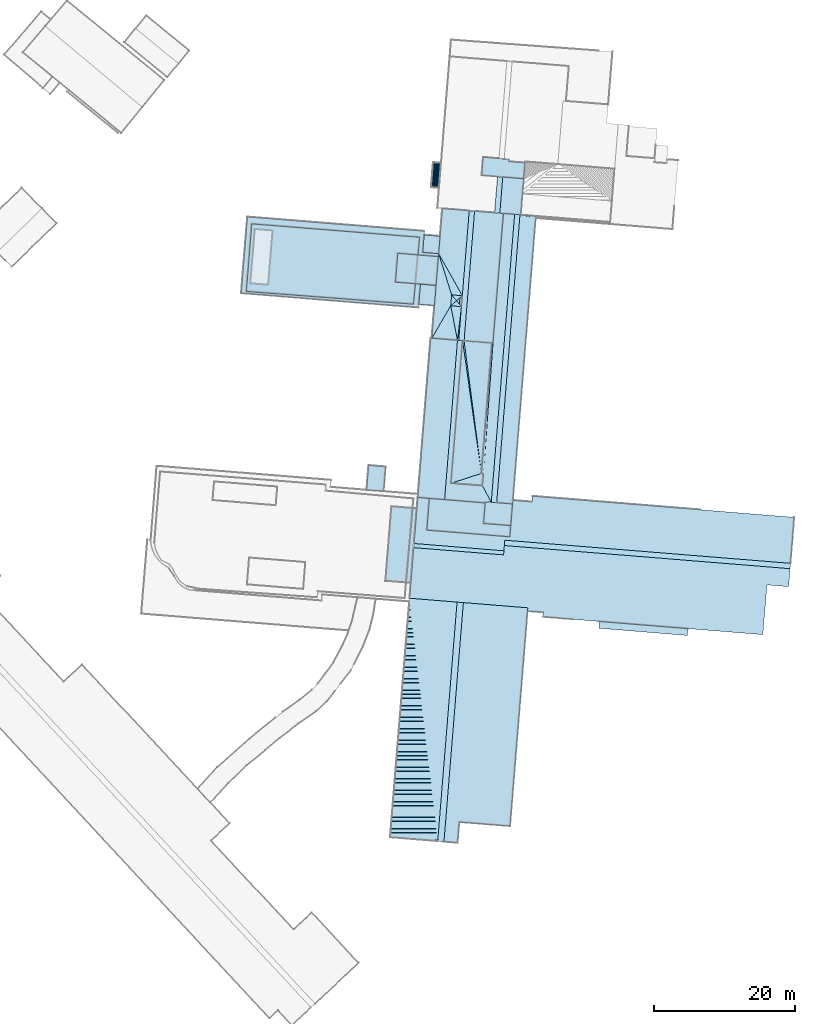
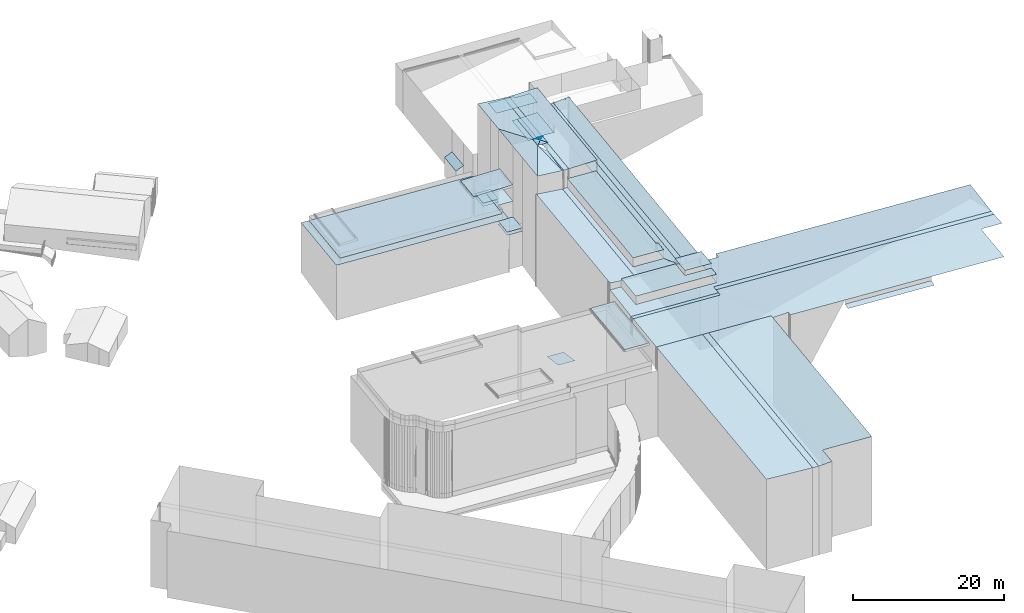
# Not in any storey, part 134 of 136: 69 roofs.
"""IFC4 building model written with IfcOpenShell, lengths in metres."""

from ifc_helpers import new_model, entity, si_unit, converted_unit, frame, origin, place, context, subcontext, project, spatial, face_set, surface_model, element, save


model = new_model("IFC4")

# Units and contexts
model_context = context("Model", 3, precision=1e-05, world=origin())
body_context = subcontext(model_context, "Body", "Model", "MODEL_VIEW")
ifc_project = project(units=[converted_unit("PLANEANGLEUNIT", "DEGREE", entity("IfcRatioMeasure", 0.0174532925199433), si_unit("PLANEANGLEUNIT", "RADIAN"), dimensions=[0, 0, 0, 0, 0, 0, 0]), si_unit("AREAUNIT", "SQUARE_METRE"), si_unit("LENGTHUNIT", "METRE")], contexts=[model_context])

# Site, building
site_placement = place(None, origin())
site = spatial("IfcSite", under=ifc_project, at=site_placement, Name="_site")
building_1_placement = place(site_placement, origin())
building_1 = spatial("IfcBuilding", under=site, at=building_1_placement, Name="_building")

# Roofs
roof_1_placement = place(building_1_placement, origin())
element("IfcRoof", 1, at=roof_1_placement, inside=building_1, Name="Roof", PredefinedType="NOTDEFINED", context=body_context, shape_type="SurfaceModel", body=[
    surface_model("IfcFaceBasedSurfaceModel", [(189.5, 104.54, 48.15), (188.73, 94.94, 48.15), (212.49, 93.12, 48.15), (213.36, 102.63, 48.15)], [face_set([[[0, 1, 2, 3]]])]),
])
roof_2_placement = place(building_1_placement, origin())
element("IfcRoof", 2, at=roof_2_placement, inside=building_1, Name="Roof", PredefinedType="NOTDEFINED", context=body_context, shape_type="SurfaceModel", body=[
    surface_model("IfcFaceBasedSurfaceModel", [(215.69, 95.79, 50.07), (216.03, 99.88, 50.07), (210.25, 100.36, 49.87), (209.92, 96.26, 49.87)], [face_set([[[0, 1, 2, 3]]])]),
])

# Building
building_2_placement = place(site_placement, origin())
building_2 = spatial("IfcBuilding", under=site, at=building_2_placement, Name="_building")

# Roofs
roof_3_placement = place(building_2_placement, origin())
element("IfcRoof", 3, at=roof_3_placement, inside=building_2, Name="Roof", PredefinedType="NOTDEFINED", context=body_context, shape_type="SurfaceModel", body=[
    surface_model("IfcFaceBasedSurfaceModel", [(266.0, 55.54, 52.09), (266.06, 56.3, 52.09), (225.45, 59.59, 52.09), (225.39, 58.83, 52.09)], [face_set([[[0, 1, 2, 3]]])]),
])
roof_4_placement = place(building_2_placement, origin())
element("IfcRoof", 4, at=roof_4_placement, inside=building_2, Name="Roof", PredefinedType="NOTDEFINED", context=body_context, shape_type="SurfaceModel", body=[
    surface_model("IfcFaceBasedSurfaceModel", [(211.93, 51.34, 52.09), (211.89, 50.86, 52.09), (209.17, 17.36, 52.25), (215.92, 16.811, 52.09), (218.67, 50.79, 52.09)], [face_set([[[0, 1, 2, 3, 4]]])]),
])
roof_5_placement = place(building_2_placement, origin())
element("IfcRoof", 5, at=roof_5_placement, inside=building_2, Name="Roof", PredefinedType="NOTDEFINED", context=body_context, shape_type="SurfaceModel", body=[
    surface_model("IfcFaceBasedSurfaceModel", [(215.46, 92.93, 44.89), (215.69, 95.79, 44.89), (213.47, 95.97, 44.89), (213.24, 93.11, 44.89)], [face_set([[[0, 1, 2, 3]]])]),
])
roof_6_placement = place(building_2_placement, origin())
element("IfcRoof", 6, at=roof_6_placement, inside=building_2, Name="Roof", PredefinedType="NOTDEFINED", context=body_context, shape_type="SurfaceModel", body=[
    surface_model("IfcFaceBasedSurfaceModel", [(205.82, 66.72, 41.95), (208.25, 66.53, 41.95), (208.53, 70.03, 41.13), (206.1, 70.23, 41.13)], [face_set([[[0, 1, 2, 3]]])]),
])
roof_7_placement = place(building_2_placement, origin())
element("IfcRoof", 7, at=roof_7_placement, inside=building_2, Name="Roof", PredefinedType="NOTDEFINED", context=body_context, shape_type="SurfaceModel", body=[
    surface_model("IfcFaceBasedSurfaceModel", [(223.64, 87.59, 54.52), (219.67, 87.917, 54.52), (219.45, 87.93, 54.52), (217.81, 67.68, 54.52), (222.28, 67.32, 54.52), (222.42, 69.061, 54.52), (222.14, 69.08, 54.52)], [face_set([[[0, 1, 2, 3, 4, 5, 6]]])]),
])
roof_8_placement = place(building_2_placement, origin())
element("IfcRoof", 8, at=roof_8_placement, inside=building_2, Name="Roof", PredefinedType="NOTDEFINED", context=body_context, shape_type="SurfaceModel", body=[
    surface_model("IfcFaceBasedSurfaceModel", [(215.69, 95.79, 50.07), (216.03, 99.88, 50.07), (210.25, 100.36, 49.87), (209.92, 96.26, 49.87)], [face_set([[[0, 1, 2, 3]]])]),
])
roof_9_placement = place(building_2_placement, origin())
element("IfcRoof", 9, at=roof_9_placement, inside=building_2, Name="Roof", PredefinedType="NOTDEFINED", context=body_context, shape_type="SurfaceModel", body=[
    surface_model("IfcFaceBasedSurfaceModel", [(219.42, 94.33, 56.01), (219.29, 92.78, 56.01), (218.91, 87.978, 56.01), (219.45, 87.93, 56.01), (219.67, 87.917, 56.01), (221.16, 106.35, 56.01), (220.4, 106.41, 56.01)], [face_set([[[0, 1, 2, 3, 4, 5, 6]]])]),
])
roof_10_placement = place(building_2_placement, origin())
element("IfcRoof", 10, at=roof_10_placement, inside=building_2, Name="Roof", PredefinedType="NOTDEFINED", context=body_context, shape_type="SurfaceModel", body=[
    surface_model("IfcFaceBasedSurfaceModel", [(218.67, 50.79, 52.09), (219.57, 50.72, 52.09), (228.73, 49.98, 52.09), (228.69, 49.5, 52.09), (230.94, 49.32, 52.25), (230.89, 48.69, 52.25), (238.89, 48.04, 52.25), (251.5, 47.021, 52.25), (262.13, 46.16, 52.25), (262.71, 53.23, 52.25), (265.79, 52.98, 52.25), (266.0, 55.54, 52.09), (225.39, 58.83, 52.09), (225.33, 58.08, 52.09), (225.28, 57.5, 52.09), (212.511, 58.53, 52.09), (211.93, 51.34, 52.09)], [face_set([[[0, 1, 2, 3, 4, 5, 6, 7, 8, 9, 10, 11, 12, 13, 14, 15, 16]]])]),
])
roof_11_placement = place(building_2_placement, origin())
element("IfcRoof", 11, at=roof_11_placement, inside=building_2, Name="Roof", PredefinedType="NOTDEFINED", context=body_context, shape_type="SurfaceModel", body=[
    surface_model("IfcFaceBasedSurfaceModel", [(228.15, 110.95, 49.85), (228.34, 113.22, 49.85), (226.06, 113.4, 49.85), (226.08, 113.72, 49.85), (225.37, 113.774, 49.85), (224.63, 113.833, 49.85), (222.38, 114.021, 49.85), (222.17, 111.43, 49.85), (224.42, 111.25, 49.85), (225.16, 111.19, 49.85)], [face_set([[[0, 1, 2, 3, 4, 5, 6, 7, 8, 9]]])]),
])
roof_12_placement = place(building_2_placement, origin())
element("IfcRoof", 12, at=roof_12_placement, inside=building_2, Name="Roof", PredefinedType="NOTDEFINED", context=body_context, shape_type="SurfaceModel", body=[
    surface_model("IfcFaceBasedSurfaceModel", [(222.68, 64.88, 53.57), (216.9, 65.349, 53.57), (214.74, 65.521, 53.57), (214.38, 61.021, 53.57), (226.18, 60.061, 53.57), (226.31, 61.65, 53.57), (222.44, 61.96, 53.57)], [face_set([[[0, 1, 2, 3, 4, 5, 6]]])]),
])
roof_13_placement = place(building_2_placement, origin())
element("IfcRoof", 13, at=roof_13_placement, inside=building_2, Name="Roof", PredefinedType="NOTDEFINED", context=body_context, shape_type="SurfaceModel", body=[
    surface_model("IfcFaceBasedSurfaceModel", [(229.85, 105.351, 53.35), (229.88, 105.64, 53.35), (227.74, 105.811, 53.07), (227.61, 105.821, 53.06), (224.3, 64.919, 53.06), (226.56, 64.73, 53.35), (226.61, 65.26, 53.35)], [face_set([[[0, 1, 2, 3, 4, 5, 6]]])]),
])
roof_14_placement = place(building_2_placement, origin())
element("IfcRoof", 14, at=roof_14_placement, inside=building_2, Name="Roof", PredefinedType="NOTDEFINED", context=body_context, shape_type="SurfaceModel", body=[
    surface_model("IfcFaceBasedSurfaceModel", [(219.67, 87.917, 56.01), (223.64, 87.59, 56.21), (223.78, 87.58, 56.22), (225.27, 106.01, 56.22), (224.75, 106.058, 56.193), (224.0, 106.118, 56.155), (221.16, 106.35, 56.01)], [face_set([[[0, 1, 2, 3, 4, 5, 6]]])]),
])
roof_15_placement = place(building_2_placement, origin())
element("IfcRoof", 15, at=roof_15_placement, inside=building_2, Name="Roof", PredefinedType="NOTDEFINED", context=body_context, shape_type="SurfaceModel", body=[
    surface_model("IfcFaceBasedSurfaceModel", [(227.61, 105.821, 53.06), (226.85, 105.887, 53.06), (223.53, 64.98, 53.06), (224.3, 64.919, 53.06)], [face_set([[[0, 1, 2, 3]]])]),
])
roof_16_placement = place(building_2_placement, origin())
element("IfcRoof", 16, at=roof_16_placement, inside=building_2, Name="Roof", PredefinedType="NOTDEFINED", context=body_context, shape_type="SurfaceModel", body=[
    surface_model("IfcFaceBasedSurfaceModel", [(217.77, 92.9, 57.43), (219.29, 92.78, 57.43), (218.6, 93.62, 57.61)], [face_set([[[0, 1, 2]]])]),
])
roof_17_placement = place(building_2_placement, origin())
element("IfcRoof", 17, at=roof_17_placement, inside=building_2, Name="Roof", PredefinedType="NOTDEFINED", context=body_context, shape_type="SurfaceModel", body=[
    surface_model("IfcFaceBasedSurfaceModel", [(228.15, 110.95, 49.85), (228.34, 113.22, 49.85), (226.06, 113.4, 49.85), (226.08, 113.72, 49.85), (225.37, 113.774, 49.85), (224.63, 113.833, 49.85), (222.38, 114.021, 49.85), (222.17, 111.43, 49.85), (224.42, 111.25, 49.85), (225.16, 111.19, 49.85)], [face_set([[[0, 1, 2, 3, 4, 5, 6, 7, 8, 9]]])]),
])
roof_18_placement = place(building_2_placement, origin())
element("IfcRoof", 18, at=roof_18_placement, inside=building_2, Name="Roof", PredefinedType="NOTDEFINED", context=body_context, shape_type="SurfaceModel", body=[
    surface_model("IfcFaceBasedSurfaceModel", [(216.26, 102.79, 44.36), (214.0, 102.97, 44.36), (213.79, 100.48, 44.36), (216.06, 100.3, 44.36)], [face_set([[[0, 1, 2, 3]]])]),
])
roof_19_placement = place(building_2_placement, origin())
element("IfcRoof", 19, at=roof_19_placement, inside=building_2, Name="Roof", PredefinedType="NOTDEFINED", context=body_context, shape_type="SurfaceModel", body=[
    surface_model("IfcFaceBasedSurfaceModel", [(224.0, 106.118, 48.02), (224.75, 106.058, 48.02), (225.16, 111.19, 48.02), (224.42, 111.25, 48.02)], [face_set([[[0, 1, 2, 3]]])]),
])
roof_20_placement = place(building_2_placement, origin())
element("IfcRoof", 20, at=roof_20_placement, inside=building_2, Name="Roof", PredefinedType="NOTDEFINED", context=body_context, shape_type="SurfaceModel", body=[
    surface_model("IfcFaceBasedSurfaceModel", [(225.28, 57.5, 52.09), (225.33, 58.08, 52.09), (212.56, 59.12, 52.09), (212.511, 58.53, 52.09)], [face_set([[[0, 1, 2, 3]]])]),
])
roof_21_placement = place(building_2_placement, origin())
element("IfcRoof", 21, at=roof_21_placement, inside=building_2, Name="Roof", PredefinedType="NOTDEFINED", context=body_context, shape_type="SurfaceModel", body=[
    surface_model("IfcFaceBasedSurfaceModel", [(218.6, 93.62, 57.61), (219.42, 94.33, 57.43), (217.9, 94.45, 57.43)], [face_set([[[0, 1, 2]]])]),
])
roof_22_placement = place(building_2_placement, origin())
element("IfcRoof", 22, at=roof_22_placement, inside=building_2, Name="Roof", PredefinedType="NOTDEFINED", context=body_context, shape_type="SurfaceModel", body=[
    surface_model("IfcFaceBasedSurfaceModel", [(222.68, 64.88, 53.57), (216.9, 65.349, 53.57), (214.74, 65.521, 53.57), (214.38, 61.021, 53.57), (226.18, 60.061, 53.57), (226.31, 61.65, 53.57), (222.44, 61.96, 53.57)], [face_set([[[0, 1, 2, 3, 4, 5, 6]]])]),
])
roof_23_placement = place(building_2_placement, origin())
element("IfcRoof", 23, at=roof_23_placement, inside=building_2, Name="Roof", PredefinedType="NOTDEFINED", context=body_context, shape_type="SurfaceModel", body=[
    surface_model("IfcFaceBasedSurfaceModel", [(215.08, 88.29, 56.22), (218.73, 87.992, 56.02), (218.91, 87.978, 56.01), (219.29, 92.78, 56.01), (217.77, 92.9, 57.43), (217.9, 94.45, 57.43), (219.42, 94.33, 56.01), (220.4, 106.41, 56.01), (216.58, 106.72, 56.22), (216.26, 102.79, 56.22), (216.06, 100.3, 56.22), (215.69, 95.79, 56.22), (215.46, 92.93, 56.22)], [face_set([[[0, 1, 2, 3, 4, 5, 6, 7, 8, 9, 10, 11, 12]]])]),
])
roof_24_placement = place(building_2_placement, origin())
element("IfcRoof", 24, at=roof_24_placement, inside=building_2, Name="Roof", PredefinedType="NOTDEFINED", context=body_context, shape_type="SurfaceModel", body=[
    surface_model("IfcFaceBasedSurfaceModel", [(189.5, 104.54, 48.15), (188.73, 94.94, 48.15), (212.49, 93.12, 48.15), (213.36, 102.63, 48.15)], [face_set([[[0, 1, 2, 3]]])]),
])
roof_25_placement = place(building_2_placement, origin())
element("IfcRoof", 25, at=roof_25_placement, inside=building_2, Name="Roof", PredefinedType="NOTDEFINED", context=body_context, shape_type="SurfaceModel", body=[
    surface_model("IfcFaceBasedSurfaceModel", [(225.28, 57.5, 52.09), (225.33, 58.08, 52.09), (212.56, 59.12, 52.09), (212.511, 58.53, 52.09)], [face_set([[[0, 1, 2, 3]]])]),
])
roof_26_placement = place(building_2_placement, origin())
element("IfcRoof", 26, at=roof_26_placement, inside=building_2, Name="Roof", PredefinedType="NOTDEFINED", context=body_context, shape_type="SurfaceModel", body=[
    surface_model("IfcFaceBasedSurfaceModel", [(224.3, 64.919, 54.32), (223.53, 64.98, 54.32), (222.69, 65.05, 54.32), (222.68, 64.88, 54.32), (222.44, 61.96, 54.32), (226.31, 61.65, 54.32), (226.56, 64.73, 54.32)], [face_set([[[0, 1, 2, 3, 4, 5, 6]]])]),
])
roof_27_placement = place(building_2_placement, origin())
element("IfcRoof", 27, at=roof_27_placement, inside=building_2, Name="Roof", PredefinedType="NOTDEFINED", context=body_context, shape_type="SurfaceModel", body=[
    surface_model("IfcFaceBasedSurfaceModel", [(215.08, 88.29, 56.22), (218.73, 87.992, 56.02), (218.91, 87.978, 56.01), (219.29, 92.78, 56.01), (217.77, 92.9, 57.43), (217.9, 94.45, 57.43), (219.42, 94.33, 56.01), (220.4, 106.41, 56.01), (216.58, 106.72, 56.22), (216.26, 102.79, 56.22), (216.06, 100.3, 56.22), (215.69, 95.79, 56.22), (215.46, 92.93, 56.22)], [face_set([[[0, 1, 2, 3, 4, 5, 6, 7, 8, 9, 10, 11, 12]]])]),
])
roof_28_placement = place(building_2_placement, origin())
element("IfcRoof", 28, at=roof_28_placement, inside=building_2, Name="Roof", PredefinedType="NOTDEFINED", context=body_context, shape_type="SurfaceModel", body=[
    surface_model("IfcFaceBasedSurfaceModel", [(223.64, 87.59, 54.52), (219.67, 87.917, 54.52), (219.45, 87.93, 54.52), (217.81, 67.68, 54.52), (222.28, 67.32, 54.52), (222.42, 69.061, 54.52), (222.14, 69.08, 54.52)], [face_set([[[0, 1, 2, 3, 4, 5, 6]]])]),
])
roof_29_placement = place(building_2_placement, origin())
element("IfcRoof", 29, at=roof_29_placement, inside=building_2, Name="Roof", PredefinedType="NOTDEFINED", context=body_context, shape_type="SurfaceModel", body=[
    surface_model("IfcFaceBasedSurfaceModel", [(216.26, 102.79, 44.36), (214.0, 102.97, 44.36), (213.79, 100.48, 44.36), (216.06, 100.3, 44.36)], [face_set([[[0, 1, 2, 3]]])]),
])
roof_30_placement = place(building_2_placement, origin())
element("IfcRoof", 30, at=roof_30_placement, inside=building_2, Name="Roof", PredefinedType="NOTDEFINED", context=body_context, shape_type="SurfaceModel", body=[
    surface_model("IfcFaceBasedSurfaceModel", [(218.67, 50.79, 52.09), (219.57, 50.72, 52.09), (228.73, 49.98, 52.09), (228.69, 49.5, 52.09), (230.94, 49.32, 52.25), (230.89, 48.69, 52.25), (238.89, 48.04, 52.25), (251.5, 47.021, 52.25), (262.13, 46.16, 52.25), (262.71, 53.23, 52.25), (265.79, 52.98, 52.25), (266.0, 55.54, 52.09), (225.39, 58.83, 52.09), (225.33, 58.08, 52.09), (225.28, 57.5, 52.09), (212.511, 58.53, 52.09), (211.93, 51.34, 52.09)], [face_set([[[0, 1, 2, 3, 4, 5, 6, 7, 8, 9, 10, 11, 12, 13, 14, 15, 16]]])]),
])
roof_31_placement = place(building_2_placement, origin())
element("IfcRoof", 31, at=roof_31_placement, inside=building_2, Name="Roof", PredefinedType="NOTDEFINED", context=body_context, shape_type="SurfaceModel", body=[
    surface_model("IfcFaceBasedSurfaceModel", [(217.77, 92.9, 57.43), (219.29, 92.78, 57.43), (218.6, 93.62, 57.61)], [face_set([[[0, 1, 2]]])]),
])
roof_32_placement = place(building_2_placement, origin())
element("IfcRoof", 32, at=roof_32_placement, inside=building_2, Name="Roof", PredefinedType="NOTDEFINED", context=body_context, shape_type="SurfaceModel", body=[
    surface_model("IfcFaceBasedSurfaceModel", [(212.96, 64.09, 51.37), (209.36, 64.38, 51.37), (208.5, 53.79, 51.37), (212.1, 53.5, 51.37)], [face_set([[[0, 1, 2, 3]]])]),
])
for number, where, name in (
    (33, (0.0, 0.0, 0.0), "Roof"),
    (34, (0.0, 0.0, 0.0), "Roof"),
):
    element("IfcRoof", number, at=place(building_2_placement, frame(where)), inside=building_2, Name=name, PredefinedType="NOTDEFINED", context=body_context, shape_type="SurfaceModel", body=[
        surface_model("IfcFaceBasedSurfaceModel", [(213.79, 100.48, 44.89), (216.06, 100.3, 44.89), (216.26, 102.79, 44.89), (214.0, 102.97, 44.89)], [face_set([[[0, 1, 2, 3]]])]),
    ])
roof_33_placement = place(building_2_placement, origin())
element("IfcRoof", 35, at=roof_33_placement, inside=building_2, Name="Roof", PredefinedType="NOTDEFINED", context=body_context, shape_type="SurfaceModel", body=[
    surface_model("IfcFaceBasedSurfaceModel", [(216.9, 65.349, 53.06), (222.68, 64.88, 53.35), (222.69, 65.05, 53.35), (223.53, 64.98, 53.06), (226.85, 105.887, 53.06), (225.27, 106.01, 53.35), (223.78, 87.58, 53.35), (223.64, 87.59, 53.33), (222.14, 69.08, 53.1), (222.42, 69.061, 53.1), (222.28, 67.32, 53.1), (217.81, 67.68, 53.1), (219.45, 87.93, 53.1), (218.91, 87.978, 53.07), (218.73, 87.992, 53.06)], [face_set([[[0, 1, 2, 3, 4, 5, 6, 7, 8, 9, 10, 11, 12, 13, 14]]])]),
])
roof_34_placement = place(building_2_placement, origin())
element("IfcRoof", 36, at=roof_34_placement, inside=building_2, Name="Roof", PredefinedType="NOTDEFINED", context=body_context, shape_type="SurfaceModel", body=[
    surface_model("IfcFaceBasedSurfaceModel", [(216.12, 109.64, 44.61), (216.41, 113.19, 44.61), (215.27, 113.28, 44.04), (214.98, 109.73, 44.04)], [face_set([[[0, 1, 2, 3]]])]),
])
roof_35_placement = place(building_2_placement, origin())
element("IfcRoof", 37, at=roof_35_placement, inside=building_2, Name="Roof", PredefinedType="NOTDEFINED", context=body_context, shape_type="SurfaceModel", body=[
    surface_model("IfcFaceBasedSurfaceModel", [(218.6, 93.62, 57.61), (217.9, 94.45, 57.43), (217.77, 92.9, 57.43)], [face_set([[[0, 1, 2]]])]),
])
roof_36_placement = place(building_2_placement, origin())
element("IfcRoof", 38, at=roof_36_placement, inside=building_2, Name="Roof", PredefinedType="NOTDEFINED", context=body_context, shape_type="SurfaceModel", body=[
    surface_model("IfcFaceBasedSurfaceModel", [(215.92, 16.811, 52.09), (216.81, 16.74, 52.09), (219.57, 50.72, 52.09), (218.67, 50.79, 52.09)], [face_set([[[0, 1, 2, 3]]])]),
])
roof_37_placement = place(building_2_placement, origin())
element("IfcRoof", 39, at=roof_37_placement, inside=building_2, Name="Roof", PredefinedType="NOTDEFINED", context=body_context, shape_type="SurfaceModel", body=[
    surface_model("IfcFaceBasedSurfaceModel", [(205.82, 66.72, 41.95), (208.25, 66.53, 41.95), (208.53, 70.03, 41.13), (206.1, 70.23, 41.13)], [face_set([[[0, 1, 2, 3]]])]),
])
roof_38_placement = place(building_2_placement, origin())
element("IfcRoof", 40, at=roof_38_placement, inside=building_2, Name="Roof", PredefinedType="NOTDEFINED", context=body_context, shape_type="SurfaceModel", body=[
    surface_model("IfcFaceBasedSurfaceModel", [(219.42, 94.33, 57.43), (218.6, 93.62, 57.61), (219.29, 92.78, 57.43)], [face_set([[[0, 1, 2]]])]),
])
roof_39_placement = place(building_2_placement, origin())
element("IfcRoof", 41, at=roof_39_placement, inside=building_2, Name="Roof", PredefinedType="NOTDEFINED", context=body_context, shape_type="SurfaceModel", body=[
    surface_model("IfcFaceBasedSurfaceModel", [(229.85, 105.351, 53.35), (229.88, 105.64, 53.35), (227.74, 105.811, 53.07), (227.61, 105.821, 53.06), (224.3, 64.919, 53.06), (226.56, 64.73, 53.35), (226.61, 65.26, 53.35)], [face_set([[[0, 1, 2, 3, 4, 5, 6]]])]),
])
roof_40_placement = place(building_2_placement, origin())
element("IfcRoof", 42, at=roof_40_placement, inside=building_2, Name="Roof", PredefinedType="NOTDEFINED", context=body_context, shape_type="SurfaceModel", body=[
    surface_model("IfcFaceBasedSurfaceModel", [(266.06, 56.3, 52.09), (266.59, 62.84, 52.25), (229.4, 65.851, 52.25), (229.34, 65.04, 52.25), (226.61, 65.26, 52.25), (226.56, 64.73, 52.25), (226.31, 61.65, 52.25), (226.18, 60.061, 52.25), (214.38, 61.021, 52.25), (214.74, 65.521, 52.25), (213.09, 65.66, 52.25), (212.56, 59.12, 52.09), (225.33, 58.08, 52.09), (225.39, 58.83, 52.09), (225.45, 59.59, 52.09)], [face_set([[[0, 1, 2, 3, 4, 5, 6, 7, 8, 9, 10, 11, 12, 13, 14]]])]),
])
roof_41_placement = place(building_2_placement, origin())
element("IfcRoof", 43, at=roof_41_placement, inside=building_2, Name="Roof", PredefinedType="NOTDEFINED", context=body_context, shape_type="SurfaceModel", body=[
    surface_model("IfcFaceBasedSurfaceModel", [(224.75, 106.058, 48.02), (225.27, 106.01, 48.22), (226.85, 105.887, 48.22), (227.61, 105.821, 48.22), (227.74, 105.811, 48.22), (227.979, 108.8, 48.22), (228.15, 110.95, 48.22), (225.16, 111.19, 48.02)], [face_set([[[0, 1, 2, 3, 4, 5, 6, 7]]])]),
])
roof_42_placement = place(building_2_placement, origin())
element("IfcRoof", 44, at=roof_42_placement, inside=building_2, Name="Roof", PredefinedType="NOTDEFINED", context=body_context, shape_type="SurfaceModel", body=[
    surface_model("IfcFaceBasedSurfaceModel", [(266.06, 56.3, 52.09), (266.59, 62.84, 52.25), (229.4, 65.851, 52.25), (229.34, 65.04, 52.25), (226.61, 65.26, 52.25), (226.56, 64.73, 52.25), (226.31, 61.65, 52.25), (226.18, 60.061, 52.25), (214.38, 61.021, 52.25), (214.74, 65.521, 52.25), (213.09, 65.66, 52.25), (212.56, 59.12, 52.09), (225.33, 58.08, 52.09), (225.39, 58.83, 52.09), (225.45, 59.59, 52.09)], [face_set([[[0, 1, 2, 3, 4, 5, 6, 7, 8, 9, 10, 11, 12, 13, 14]]])]),
])
roof_43_placement = place(building_2_placement, origin())
element("IfcRoof", 45, at=roof_43_placement, inside=building_2, Name="Roof", PredefinedType="NOTDEFINED", context=body_context, shape_type="SurfaceModel", body=[
    surface_model("IfcFaceBasedSurfaceModel", [(218.6, 93.62, 57.61), (219.42, 94.33, 57.43), (217.9, 94.45, 57.43)], [face_set([[[0, 1, 2]]])]),
])
roof_44_placement = place(building_2_placement, origin())
element("IfcRoof", 46, at=roof_44_placement, inside=building_2, Name="Roof", PredefinedType="NOTDEFINED", context=body_context, shape_type="SurfaceModel", body=[
    surface_model("IfcFaceBasedSurfaceModel", [(224.3, 64.919, 54.32), (223.53, 64.98, 54.32), (222.69, 65.05, 54.32), (222.68, 64.88, 54.32), (222.44, 61.96, 54.32), (226.31, 61.65, 54.32), (226.56, 64.73, 54.32)], [face_set([[[0, 1, 2, 3, 4, 5, 6]]])]),
])
roof_45_placement = place(building_2_placement, origin())
element("IfcRoof", 47, at=roof_45_placement, inside=building_2, Name="Roof", PredefinedType="NOTDEFINED", context=body_context, shape_type="SurfaceModel", body=[
    surface_model("IfcFaceBasedSurfaceModel", [(216.81, 16.74, 52.09), (218.76, 16.58, 52.25), (219.0, 19.53, 52.25), (226.21, 18.95, 52.25), (228.69, 49.5, 52.09), (228.73, 49.98, 52.09), (219.57, 50.72, 52.09)], [face_set([[[0, 1, 2, 3, 4, 5, 6]]])]),
])
roof_46_placement = place(building_2_placement, origin())
element("IfcRoof", 48, at=roof_46_placement, inside=building_2, Name="Roof", PredefinedType="NOTDEFINED", context=body_context, shape_type="SurfaceModel", body=[
    surface_model("IfcFaceBasedSurfaceModel", [(219.42, 94.33, 56.01), (219.29, 92.78, 56.01), (218.91, 87.978, 56.01), (219.45, 87.93, 56.01), (219.67, 87.917, 56.01), (221.16, 106.35, 56.01), (220.4, 106.41, 56.01)], [face_set([[[0, 1, 2, 3, 4, 5, 6]]])]),
])
roof_47_placement = place(building_2_placement, origin())
element("IfcRoof", 49, at=roof_47_placement, inside=building_2, Name="Roof", PredefinedType="NOTDEFINED", context=body_context, shape_type="SurfaceModel", body=[
    surface_model("IfcFaceBasedSurfaceModel", [(215.46, 92.93, 44.89), (215.69, 95.79, 44.89), (213.47, 95.97, 44.89), (213.24, 93.11, 44.89)], [face_set([[[0, 1, 2, 3]]])]),
])
roof_48_placement = place(building_2_placement, origin())
element("IfcRoof", 50, at=roof_48_placement, inside=building_2, Name="Roof", PredefinedType="NOTDEFINED", context=body_context, shape_type="SurfaceModel", body=[
    surface_model("IfcFaceBasedSurfaceModel", [(218.6, 93.62, 57.61), (217.9, 94.45, 57.43), (217.77, 92.9, 57.43)], [face_set([[[0, 1, 2]]])]),
])
roof_49_placement = place(building_2_placement, origin())
element("IfcRoof", 51, at=roof_49_placement, inside=building_2, Name="Roof", PredefinedType="NOTDEFINED", context=body_context, shape_type="SurfaceModel", body=[
    surface_model("IfcFaceBasedSurfaceModel", [(215.69, 95.79, 44.36), (213.47, 95.97, 44.36), (213.24, 93.11, 44.36), (215.46, 92.93, 44.36)], [face_set([[[0, 1, 2, 3]]])]),
])
roof_50_placement = place(building_2_placement, origin())
element("IfcRoof", 52, at=roof_50_placement, inside=building_2, Name="Roof", PredefinedType="NOTDEFINED", context=body_context, shape_type="SurfaceModel", body=[
    surface_model("IfcFaceBasedSurfaceModel", [(218.73, 87.992, 53.06), (215.08, 88.29, 53.33), (214.92, 88.3, 53.35), (213.13, 66.13, 53.35), (213.09, 65.66, 53.35), (214.74, 65.521, 53.22), (216.9, 65.349, 53.06)], [face_set([[[0, 1, 2, 3, 4, 5, 6]]])]),
])
roof_51_placement = place(building_2_placement, origin())
element("IfcRoof", 53, at=roof_51_placement, inside=building_2, Name="Roof", PredefinedType="NOTDEFINED", context=body_context, shape_type="SurfaceModel", body=[
    surface_model("IfcFaceBasedSurfaceModel", [(215.92, 16.811, 52.09), (216.81, 16.74, 52.09), (219.57, 50.72, 52.09), (218.67, 50.79, 52.09)], [face_set([[[0, 1, 2, 3]]])]),
])
roof_52_placement = place(building_2_placement, origin())
element("IfcRoof", 54, at=roof_52_placement, inside=building_2, Name="Roof", PredefinedType="NOTDEFINED", context=body_context, shape_type="SurfaceModel", body=[
    surface_model("IfcFaceBasedSurfaceModel", [(227.61, 105.821, 53.06), (226.85, 105.887, 53.06), (223.53, 64.98, 53.06), (224.3, 64.919, 53.06)], [face_set([[[0, 1, 2, 3]]])]),
])
roof_53_placement = place(building_2_placement, origin())
element("IfcRoof", 55, at=roof_53_placement, inside=building_2, Name="Roof", PredefinedType="NOTDEFINED", context=body_context, shape_type="SurfaceModel", body=[
    surface_model("IfcFaceBasedSurfaceModel", [(251.5, 47.021, 51.59), (238.89, 48.04, 51.59), (238.81, 47.07, 51.49), (251.42, 46.04, 51.49)], [face_set([[[0, 1, 2, 3]]])]),
])
roof_54_placement = place(building_2_placement, origin())
element("IfcRoof", 56, at=roof_54_placement, inside=building_2, Name="Roof", PredefinedType="NOTDEFINED", context=body_context, shape_type="SurfaceModel", body=[
    surface_model("IfcFaceBasedSurfaceModel", [(224.75, 106.058, 48.02), (225.27, 106.01, 48.22), (226.85, 105.887, 48.22), (227.61, 105.821, 48.22), (227.74, 105.811, 48.22), (227.979, 108.8, 48.22), (228.15, 110.95, 48.22), (225.16, 111.19, 48.02)], [face_set([[[0, 1, 2, 3, 4, 5, 6, 7]]])]),
])
roof_55_placement = place(building_2_placement, origin())
element("IfcRoof", 57, at=roof_55_placement, inside=building_2, Name="Roof", PredefinedType="NOTDEFINED", context=body_context, shape_type="SurfaceModel", body=[
    surface_model("IfcFaceBasedSurfaceModel", [(216.12, 109.64, 44.61), (216.41, 113.19, 44.61), (215.27, 113.28, 44.04), (214.98, 109.73, 44.04)], [face_set([[[0, 1, 2, 3]]])]),
])
roof_56_placement = place(building_2_placement, origin())
element("IfcRoof", 58, at=roof_56_placement, inside=building_2, Name="Roof", PredefinedType="NOTDEFINED", context=body_context, shape_type="SurfaceModel", body=[
    surface_model("IfcFaceBasedSurfaceModel", [(224.0, 106.118, 48.02), (224.75, 106.058, 48.02), (225.16, 111.19, 48.02), (224.42, 111.25, 48.02)], [face_set([[[0, 1, 2, 3]]])]),
])
roof_57_placement = place(building_2_placement, origin())
element("IfcRoof", 59, at=roof_57_placement, inside=building_2, Name="Roof", PredefinedType="NOTDEFINED", context=body_context, shape_type="SurfaceModel", body=[
    surface_model("IfcFaceBasedSurfaceModel", [(218.73, 87.992, 53.06), (215.08, 88.29, 53.33), (214.92, 88.3, 53.35), (213.13, 66.13, 53.35), (213.09, 65.66, 53.35), (214.74, 65.521, 53.22), (216.9, 65.349, 53.06)], [face_set([[[0, 1, 2, 3, 4, 5, 6]]])]),
])
roof_58_placement = place(building_2_placement, origin())
element("IfcRoof", 60, at=roof_58_placement, inside=building_2, Name="Roof", PredefinedType="NOTDEFINED", context=body_context, shape_type="SurfaceModel", body=[
    surface_model("IfcFaceBasedSurfaceModel", [(213.24, 93.11, 47.4), (213.47, 95.97, 47.4), (215.69, 95.79, 47.4), (216.06, 100.3, 47.4), (213.79, 100.48, 47.4), (214.0, 102.97, 47.4), (214.04, 103.51, 47.4), (188.88, 105.54, 47.4), (188.0, 94.68, 47.4), (213.2, 92.64, 47.4)], [face_set([[[0, 1, 2, 3, 4, 5, 6, 7, 8, 9]]])]),
])
roof_59_placement = place(building_2_placement, origin())
element("IfcRoof", 61, at=roof_59_placement, inside=building_2, Name="Roof", PredefinedType="NOTDEFINED", context=body_context, shape_type="SurfaceModel", body=[
    surface_model("IfcFaceBasedSurfaceModel", [(219.42, 94.33, 57.43), (218.6, 93.62, 57.61), (219.29, 92.78, 57.43)], [face_set([[[0, 1, 2]]])]),
])
roof_60_placement = place(building_2_placement, origin())
element("IfcRoof", 62, at=roof_60_placement, inside=building_2, Name="Roof", PredefinedType="NOTDEFINED", context=body_context, shape_type="SurfaceModel", body=[
    surface_model("IfcFaceBasedSurfaceModel", [(266.0, 55.54, 52.09), (266.06, 56.3, 52.09), (225.45, 59.59, 52.09), (225.39, 58.83, 52.09)], [face_set([[[0, 1, 2, 3]]])]),
])
roof_61_placement = place(building_2_placement, origin())
element("IfcRoof", 63, at=roof_61_placement, inside=building_2, Name="Roof", PredefinedType="NOTDEFINED", context=body_context, shape_type="SurfaceModel", body=[
    surface_model("IfcFaceBasedSurfaceModel", [(219.67, 87.917, 56.01), (223.64, 87.59, 56.21), (223.78, 87.58, 56.22), (225.27, 106.01, 56.22), (224.75, 106.058, 56.193), (224.0, 106.118, 56.155), (221.16, 106.35, 56.01)], [face_set([[[0, 1, 2, 3, 4, 5, 6]]])]),
])
roof_62_placement = place(building_2_placement, origin())
element("IfcRoof", 64, at=roof_62_placement, inside=building_2, Name="Roof", PredefinedType="NOTDEFINED", context=body_context, shape_type="SurfaceModel", body=[
    surface_model("IfcFaceBasedSurfaceModel", [(215.69, 95.79, 44.36), (213.47, 95.97, 44.36), (213.24, 93.11, 44.36), (215.46, 92.93, 44.36)], [face_set([[[0, 1, 2, 3]]])]),
])
roof_63_placement = place(building_2_placement, origin())
element("IfcRoof", 65, at=roof_63_placement, inside=building_2, Name="Roof", PredefinedType="NOTDEFINED", context=body_context, shape_type="SurfaceModel", body=[
    surface_model("IfcFaceBasedSurfaceModel", [(211.93, 51.34, 52.09), (211.89, 50.86, 52.09), (209.17, 17.36, 52.25), (215.92, 16.811, 52.09), (218.67, 50.79, 52.09)], [face_set([[[0, 1, 2, 3, 4]]])]),
])
roof_64_placement = place(building_2_placement, origin())
element("IfcRoof", 66, at=roof_64_placement, inside=building_2, Name="Roof", PredefinedType="NOTDEFINED", context=body_context, shape_type="SurfaceModel", body=[
    surface_model("IfcFaceBasedSurfaceModel", [(216.81, 16.74, 52.09), (218.76, 16.58, 52.25), (219.0, 19.53, 52.25), (226.21, 18.95, 52.25), (228.69, 49.5, 52.09), (228.73, 49.98, 52.09), (219.57, 50.72, 52.09)], [face_set([[[0, 1, 2, 3, 4, 5, 6]]])]),
])
roof_65_placement = place(building_2_placement, origin())
element("IfcRoof", 67, at=roof_65_placement, inside=building_2, Name="Roof", PredefinedType="NOTDEFINED", context=body_context, shape_type="SurfaceModel", body=[
    surface_model("IfcFaceBasedSurfaceModel", [(251.5, 47.021, 51.59), (238.89, 48.04, 51.59), (238.81, 47.07, 51.49), (251.42, 46.04, 51.49)], [face_set([[[0, 1, 2, 3]]])]),
])
roof_66_placement = place(building_2_placement, origin())
element("IfcRoof", 68, at=roof_66_placement, inside=building_2, Name="Roof", PredefinedType="NOTDEFINED", context=body_context, shape_type="SurfaceModel", body=[
    surface_model("IfcFaceBasedSurfaceModel", [(216.9, 65.349, 53.06), (222.68, 64.88, 53.35), (222.69, 65.05, 53.35), (223.53, 64.98, 53.06), (226.85, 105.887, 53.06), (225.27, 106.01, 53.35), (223.78, 87.58, 53.35), (223.64, 87.59, 53.33), (222.14, 69.08, 53.1), (222.42, 69.061, 53.1), (222.28, 67.32, 53.1), (217.81, 67.68, 53.1), (219.45, 87.93, 53.1), (218.91, 87.978, 53.07), (218.73, 87.992, 53.06)], [face_set([[[0, 1, 2, 3, 4, 5, 6, 7, 8, 9, 10, 11, 12, 13, 14]]])]),
])
roof_67_placement = place(building_2_placement, origin())
element("IfcRoof", 69, at=roof_67_placement, inside=building_2, Name="Roof", PredefinedType="NOTDEFINED", context=body_context, shape_type="SurfaceModel", body=[
    surface_model("IfcFaceBasedSurfaceModel", [(213.24, 93.11, 47.4), (213.47, 95.97, 47.4), (215.69, 95.79, 47.4), (216.06, 100.3, 47.4), (213.79, 100.48, 47.4), (214.0, 102.97, 47.4), (214.04, 103.51, 47.4), (188.88, 105.54, 47.4), (188.0, 94.68, 47.4), (213.2, 92.64, 47.4)], [face_set([[[0, 1, 2, 3, 4, 5, 6, 7, 8, 9]]])]),
])

save(model, "model.ifc")
